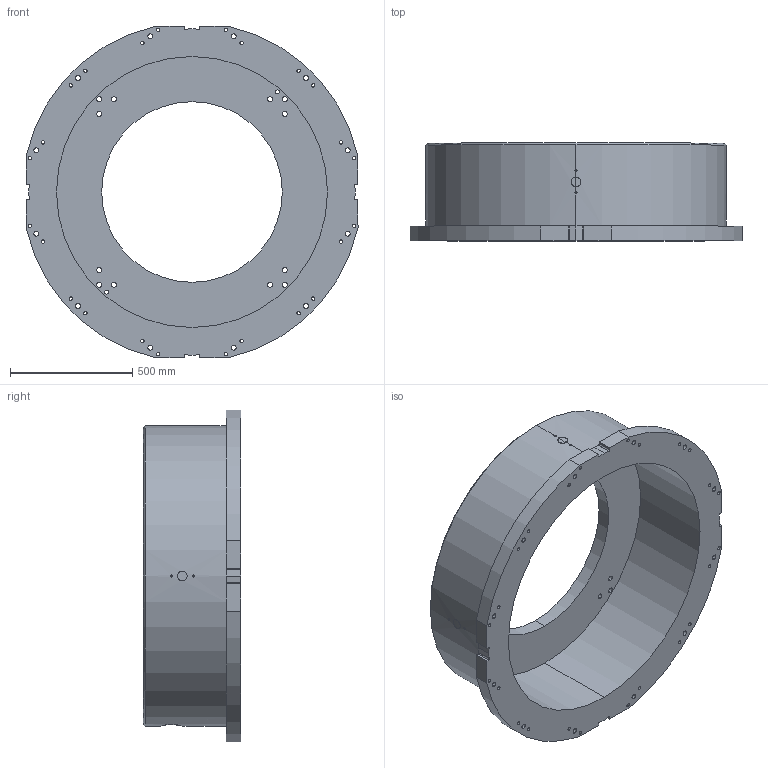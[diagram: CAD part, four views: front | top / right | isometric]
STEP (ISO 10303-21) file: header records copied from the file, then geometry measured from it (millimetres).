
FILE_DESCRIPTION (( 'STEP AP214' ), '1' );
FILE_NAME ('T-400.STEP', '2024-01-24T12:17:31', ( '' ), ( '' ), 'SwSTEP 2.0', 'SolidWorks 2022', '' );
FILE_SCHEMA (( 'AUTOMOTIVE_DESIGN' ));
Length unit declared in the file: millimetre
Products named in the file (1): T-400
Bounding box: 1360 x 400 x 1360 mm (x, y, z)
Volume: 136347351.9 mm3; surface area: 5173683 mm2
Topology: 1 solids, 1 shells, 210 faces, 592 edges, 394 vertices
Faces by surface type: cylinder 164, plane 28, bspline 16, cone 2
Entity records: 11390 total; most frequent: CARTESIAN_POINT 4674, ORIENTED_EDGE 1184, DIRECTION 1128, EDGE_CURVE 592, AXIS2_PLACEMENT_3D 449, VERTEX_POINT 394, EDGE_LOOP 322, CIRCLE 254
